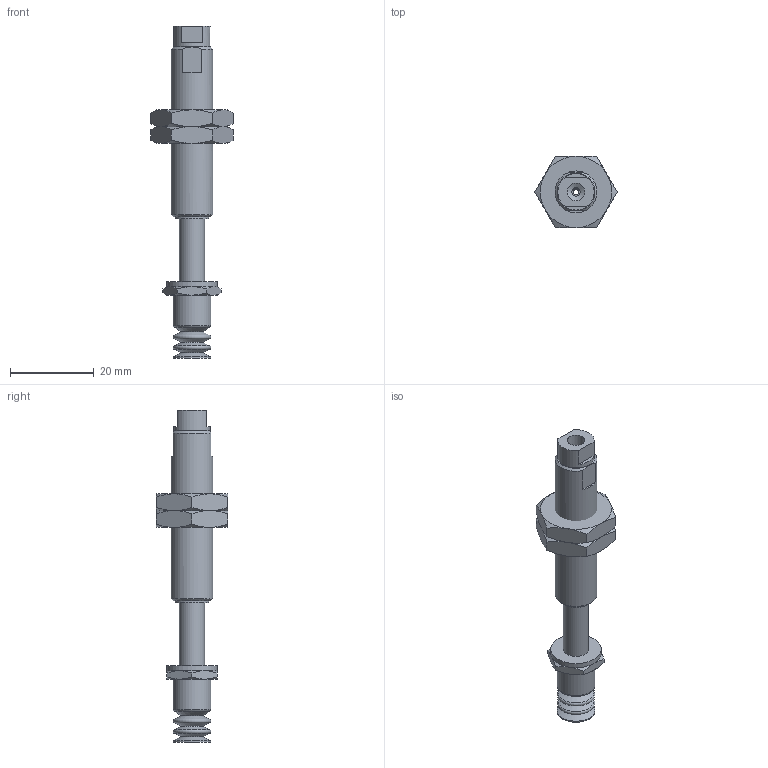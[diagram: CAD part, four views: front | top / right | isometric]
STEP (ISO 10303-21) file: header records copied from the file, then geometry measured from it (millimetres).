
FILE_DESCRIPTION(('STEP AP203'),'1');
FILE_NAME('-LB.stp','2025-10-10T05:44:10',(' '),(' '),'Spatial InterOp 3D',' ',' ');
FILE_SCHEMA(('CONFIG_CONTROL_DESIGN'));
Length unit declared in the file: millimetre
Products named in the file (7): BNABPCTH-10-15-※-LB; NUT; __; BODY; BPCG-10-※; TN-PC-10-M5
Assembly tree (6 placements, depth 2):
  BNABPCTH-10-15-※-LB
    NUT
    NUT
    __
    BODY
    BPCG-10-※
    TN-PC-10-M5
Bounding box: 19.63 x 17 x 79.2 mm (x, y, z)
Volume: 6138.2 mm3; surface area: 5205.1 mm2
Topology: 6 solids, 6 shells, 123 faces, 254 edges, 149 vertices
Faces by surface type: cone 50, plane 44, cylinder 19, torus 8, sphere 2
Full cylindrical faces by diameter (mm): 1.25 x1, 2 x1, 4 x1, 4.2 x2, 5 x5, 6 x1, 8 x1, 8.7 x1, 9 x4, 10 x1, 12 x1
Entity records: 3428 total; most frequent: CARTESIAN_POINT 738, DIRECTION 492, ORIENTED_EDGE 416, AXIS2_PLACEMENT_3D 230, EDGE_CURVE 208, EDGE_LOOP 182, FACE_OUTER_BOUND 152, VERTEX_POINT 144
